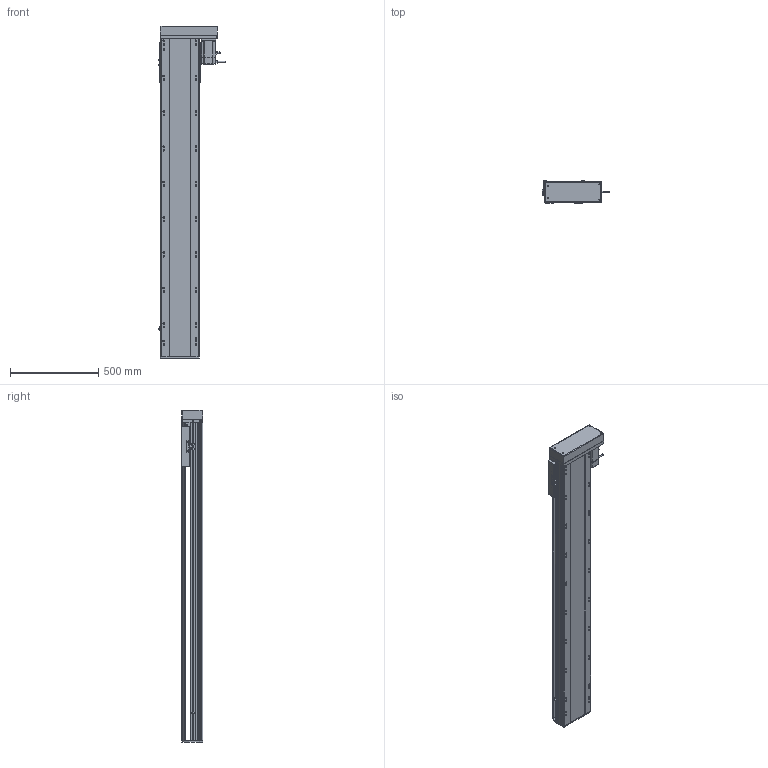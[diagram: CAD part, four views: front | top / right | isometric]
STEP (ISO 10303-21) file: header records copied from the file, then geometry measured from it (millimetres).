
FILE_DESCRIPTION (( 'STEP AP214' ), '1' );
FILE_NAME ('RTH22-XX-1500-L-M75-C4.STEP', '2025-10-24T11:03:53', ( 'Microsoft' ), ( 'Microsoft' ), 'SwSTEP 2.0', 'SolidWorks 2018', '' );
FILE_SCHEMA (( 'AUTOMOTIVE_DESIGN' ));
Length unit declared in the file: millimetre
Products named in the file (10): N_RTH22-GY-001耜裔^RTH22-XX-XX-L-M75-C4; N_750W萇儂^RTH22-XX-XX-L-M75-C4; N_RTH22-GY-013外置感应片^RTH22-XX-XX-L-M75-C4; N_OMRON EE-SX672 传感器^RTH22-XX-XX-L-M75-C4; N_RTH22-L-018裔赽^RTH22-XX-XX-L-M75-C4; N_RTH22-L-007奻裔^RTH22-XX-XX-L-M75-C4; N_RTH22-L-004-SFS25賑釱^RTH22-XX-XX-L-M75-C4; N_RTH22-L-011菁釱^RTH22-XX-XX-L-M75-C4; RTH22-XX-1500-L-M75-C4; N_RTH22-L-008-P75萇儂啣^RTH22-XX-XX-L-M75-C4
Assembly tree (11 placements, depth 2):
  RTH22-XX-1500-L-M75-C4
    N_RTH22-L-011菁釱^RTH22-XX-XX-L-M75-C4
    N_RTH22-GY-001耜裔^RTH22-XX-XX-L-M75-C4
    N_750W萇儂^RTH22-XX-XX-L-M75-C4
    N_RTH22-L-008-P75萇儂啣^RTH22-XX-XX-L-M75-C4
    N_RTH22-L-007奻裔^RTH22-XX-XX-L-M75-C4
    N_RTH22-L-018裔赽^RTH22-XX-XX-L-M75-C4
    N_OMRON EE-SX672 传感器^RTH22-XX-XX-L-M75-C4  x3
    N_RTH22-GY-013外置感应片^RTH22-XX-XX-L-M75-C4
    N_RTH22-L-004-SFS25賑釱^RTH22-XX-XX-L-M75-C4
Bounding box: 384.7 x 122 x 1879.7 mm (x, y, z)
Volume: 24737397.7 mm3; surface area: 2693511.9 mm2
Topology: 11 solids, 11 shells, 1660 faces, 4529 edges, 2911 vertices
Faces by surface type: plane 801, cylinder 506, bspline 279, cone 74
Entity records: 42309 total; most frequent: CARTESIAN_POINT 12706, ORIENTED_EDGE 6002, DIRECTION 5731, EDGE_CURVE 3001, AXIS2_PLACEMENT_3D 1956, VERTEX_POINT 1947, VECTOR 1819, LINE 1819
